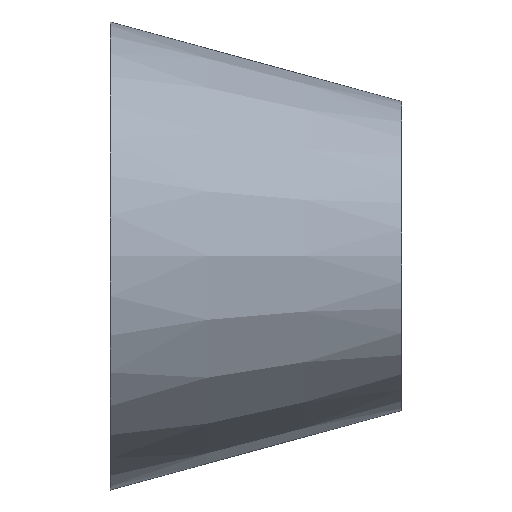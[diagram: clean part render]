
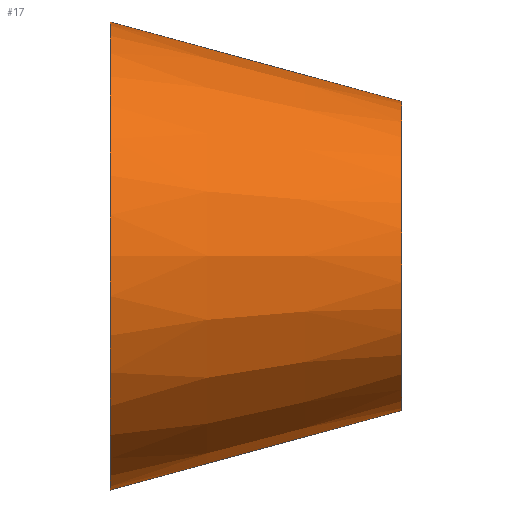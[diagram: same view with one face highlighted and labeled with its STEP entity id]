
A CAD part, top view. The second image highlights one B-rep face of the part: STEP entity #17.
In plain terms, the highlighted conical face has half-angle 15.255 degrees and reference radius 26.5 mm.
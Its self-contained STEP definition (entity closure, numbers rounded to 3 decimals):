
#17 = ADVANCED_FACE('',(#18),#31,.T.);
#18 = FACE_BOUND('',#19,.T.);
#19 = EDGE_LOOP('',(#20,#54,#74,#101));
#20 = ORIENTED_EDGE('',*,*,#21,.T.);
#21 = EDGE_CURVE('',#22,#22,#24,.T.);
#22 = VERTEX_POINT('',#23);
#23 = CARTESIAN_POINT('',(0.,26.5,0.));
#24 = SURFACE_CURVE('',#25,(#30,#42),.PCURVE_S1.);
#25 = CIRCLE('',#26,26.5);
#26 = AXIS2_PLACEMENT_3D('',#27,#28,#29);
#27 = CARTESIAN_POINT('',(0.,0.,0.));
#28 = DIRECTION('',(1.,0.,0.));
#29 = DIRECTION('',(0.,1.,0.));
#30 = PCURVE('',#31,#36);
#31 = CONICAL_SURFACE('',#32,26.5,0.266);
#32 = AXIS2_PLACEMENT_3D('',#33,#34,#35);
#33 = CARTESIAN_POINT('',(0.,0.,0.));
#34 = DIRECTION('',(-1.,-0.,-0.));
#35 = DIRECTION('',(0.,1.,0.));
#36 = DEFINITIONAL_REPRESENTATION('',(#37),#41);
#37 = LINE('',#38,#39);
#38 = CARTESIAN_POINT('',(-0.,-0.));
#39 = VECTOR('',#40,1.);
#40 = DIRECTION('',(-1.,-0.));
#41 = ( GEOMETRIC_REPRESENTATION_CONTEXT(2) 
PARAMETRIC_REPRESENTATION_CONTEXT() REPRESENTATION_CONTEXT('2D SPACE',''
  ) );
#42 = PCURVE('',#43,#48);
#43 = PLANE('',#44);
#44 = AXIS2_PLACEMENT_3D('',#45,#46,#47);
#45 = CARTESIAN_POINT('',(0.,0.,0.));
#46 = DIRECTION('',(1.,0.,0.));
#47 = DIRECTION('',(0.,1.,0.));
#48 = DEFINITIONAL_REPRESENTATION('',(#49),#53);
#49 = CIRCLE('',#50,26.5);
#50 = AXIS2_PLACEMENT_2D('',#51,#52);
#51 = CARTESIAN_POINT('',(0.,0.));
#52 = DIRECTION('',(1.,0.));
#53 = ( GEOMETRIC_REPRESENTATION_CONTEXT(2) 
PARAMETRIC_REPRESENTATION_CONTEXT() REPRESENTATION_CONTEXT('2D SPACE',''
  ) );
#54 = ORIENTED_EDGE('',*,*,#55,.T.);
#55 = EDGE_CURVE('',#22,#56,#58,.T.);
#56 = VERTEX_POINT('',#57);
#57 = CARTESIAN_POINT('',(33.,17.5,0.));
#58 = SEAM_CURVE('',#59,(#62,#68),.PCURVE_S1.);
#59 = B_SPLINE_CURVE_WITH_KNOTS('',1,(#60,#61),.UNSPECIFIED.,.F.,.F.,(2,
    2),(0.,1.),.PIECEWISE_BEZIER_KNOTS.);
#60 = CARTESIAN_POINT('',(0.,26.5,0.));
#61 = CARTESIAN_POINT('',(33.,17.5,0.));
#62 = PCURVE('',#31,#63);
#63 = DEFINITIONAL_REPRESENTATION('',(#64),#67);
#64 = B_SPLINE_CURVE_WITH_KNOTS('',1,(#65,#66),.UNSPECIFIED.,.F.,.F.,(2,
    2),(0.,1.),.PIECEWISE_BEZIER_KNOTS.);
#65 = CARTESIAN_POINT('',(-6.283,0.));
#66 = CARTESIAN_POINT('',(-6.283,-33.));
#67 = ( GEOMETRIC_REPRESENTATION_CONTEXT(2) 
PARAMETRIC_REPRESENTATION_CONTEXT() REPRESENTATION_CONTEXT('2D SPACE',''
  ) );
#68 = PCURVE('',#31,#69);
#69 = DEFINITIONAL_REPRESENTATION('',(#70),#73);
#70 = B_SPLINE_CURVE_WITH_KNOTS('',1,(#71,#72),.UNSPECIFIED.,.F.,.F.,(2,
    2),(0.,1.),.PIECEWISE_BEZIER_KNOTS.);
#71 = CARTESIAN_POINT('',(0.,0.));
#72 = CARTESIAN_POINT('',(0.,-33.));
#73 = ( GEOMETRIC_REPRESENTATION_CONTEXT(2) 
PARAMETRIC_REPRESENTATION_CONTEXT() REPRESENTATION_CONTEXT('2D SPACE',''
  ) );
#74 = ORIENTED_EDGE('',*,*,#75,.F.);
#75 = EDGE_CURVE('',#56,#56,#76,.T.);
#76 = SURFACE_CURVE('',#77,(#82,#89),.PCURVE_S1.);
#77 = CIRCLE('',#78,17.5);
#78 = AXIS2_PLACEMENT_3D('',#79,#80,#81);
#79 = CARTESIAN_POINT('',(33.,0.,0.));
#80 = DIRECTION('',(1.,0.,0.));
#81 = DIRECTION('',(0.,1.,0.));
#82 = PCURVE('',#31,#83);
#83 = DEFINITIONAL_REPRESENTATION('',(#84),#88);
#84 = LINE('',#85,#86);
#85 = CARTESIAN_POINT('',(-0.,-33.));
#86 = VECTOR('',#87,1.);
#87 = DIRECTION('',(-1.,-0.));
#88 = ( GEOMETRIC_REPRESENTATION_CONTEXT(2) 
PARAMETRIC_REPRESENTATION_CONTEXT() REPRESENTATION_CONTEXT('2D SPACE',''
  ) );
#89 = PCURVE('',#90,#95);
#90 = PLANE('',#91);
#91 = AXIS2_PLACEMENT_3D('',#92,#93,#94);
#92 = CARTESIAN_POINT('',(33.,0.,0.));
#93 = DIRECTION('',(1.,0.,0.));
#94 = DIRECTION('',(0.,1.,0.));
#95 = DEFINITIONAL_REPRESENTATION('',(#96),#100);
#96 = CIRCLE('',#97,17.5);
#97 = AXIS2_PLACEMENT_2D('',#98,#99);
#98 = CARTESIAN_POINT('',(0.,0.));
#99 = DIRECTION('',(1.,0.));
#100 = ( GEOMETRIC_REPRESENTATION_CONTEXT(2) 
PARAMETRIC_REPRESENTATION_CONTEXT() REPRESENTATION_CONTEXT('2D SPACE',''
  ) );
#101 = ORIENTED_EDGE('',*,*,#55,.F.);
